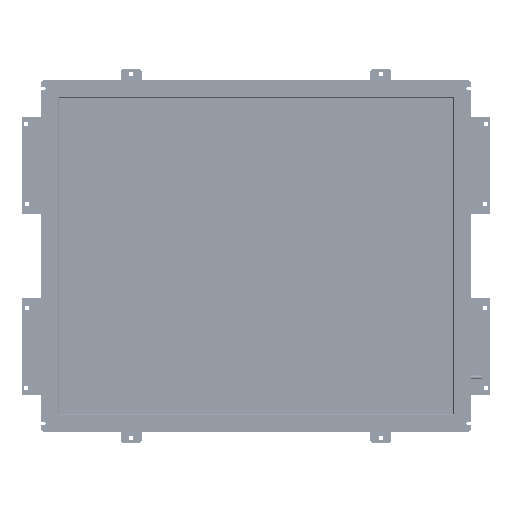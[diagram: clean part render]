
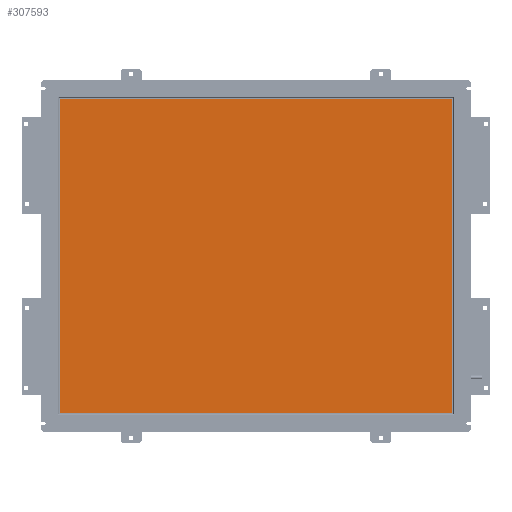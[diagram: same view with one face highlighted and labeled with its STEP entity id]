
A CAD part, top view. The second image highlights one B-rep face of the part: STEP entity #307593.
In plain terms, the highlighted planar face has unit normal (0, 0, 1).
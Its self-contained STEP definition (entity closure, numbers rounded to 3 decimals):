
#5693 = EDGE_CURVE ( 'NONE', #170243, #27244, #236355, .T. ) ;
#23871 = EDGE_CURVE ( 'NONE', #27244, #360030, #30729, .T. ) ;
#27244 = VERTEX_POINT ( 'NONE', #182923 ) ;
#27933 = CARTESIAN_POINT ( 'NONE',  ( -188., 150.5, -1. ) ) ;
#30729 = LINE ( 'NONE', #253588, #181999 ) ;
#36034 = ORIENTED_EDGE ( 'NONE', *, *, #123234, .T. ) ;
#40109 = DIRECTION ( 'NONE',  ( 0., 1., 0. ) ) ;
#54827 = AXIS2_PLACEMENT_3D ( 'NONE', #395364, #231993, #293554 ) ;
#86691 = VECTOR ( 'NONE', #157381, 1000. ) ;
#108989 = CARTESIAN_POINT ( 'NONE',  ( -188., 150.5, -1. ) ) ;
#123234 = EDGE_CURVE ( 'NONE', #186972, #170243, #153213, .T. ) ;
#126384 = VECTOR ( 'NONE', #40109, 1000. ) ;
#130003 = ORIENTED_EDGE ( 'NONE', *, *, #5693, .T. ) ;
#153213 = LINE ( 'NONE', #27933, #86691 ) ;
#157381 = DIRECTION ( 'NONE',  ( -1., 0., 0. ) ) ;
#164164 = PLANE ( 'NONE',  #54827 ) ;
#166266 = FACE_OUTER_BOUND ( 'NONE', #300758, .T. ) ;
#170243 = VERTEX_POINT ( 'NONE', #108989 ) ;
#181999 = VECTOR ( 'NONE', #183645, 1000. ) ;
#182923 = CARTESIAN_POINT ( 'NONE',  ( -188., -150.5, -1. ) ) ;
#183645 = DIRECTION ( 'NONE',  ( 1., 0., 0. ) ) ;
#186972 = VERTEX_POINT ( 'NONE', #342175 ) ;
#211996 = ORIENTED_EDGE ( 'NONE', *, *, #299970, .T. ) ;
#231993 = DIRECTION ( 'NONE',  ( 0., 0., -1. ) ) ;
#236355 = LINE ( 'NONE', #365750, #303141 ) ;
#253588 = CARTESIAN_POINT ( 'NONE',  ( -188., -150.5, -1. ) ) ;
#293554 = DIRECTION ( 'NONE',  ( -1., 0., 0. ) ) ;
#299970 = EDGE_CURVE ( 'NONE', #360030, #186972, #362609, .T. ) ;
#300758 = EDGE_LOOP ( 'NONE', ( #211996, #36034, #130003, #311622 ) ) ;
#303141 = VECTOR ( 'NONE', #363661, 1000. ) ;
#307593 = ADVANCED_FACE ( 'NONE', ( #166266 ), #164164, .F. ) ;
#311622 = ORIENTED_EDGE ( 'NONE', *, *, #23871, .T. ) ;
#342175 = CARTESIAN_POINT ( 'NONE',  ( 188., 150.5, -1. ) ) ;
#360030 = VERTEX_POINT ( 'NONE', #381621 ) ;
#360496 = CARTESIAN_POINT ( 'NONE',  ( 188., -150.5, -1. ) ) ;
#362609 = LINE ( 'NONE', #360496, #126384 ) ;
#363661 = DIRECTION ( 'NONE',  ( 0., -1., 0. ) ) ;
#365750 = CARTESIAN_POINT ( 'NONE',  ( -188., -150.5, -1. ) ) ;
#381621 = CARTESIAN_POINT ( 'NONE',  ( 188., -150.5, -1. ) ) ;
#395364 = CARTESIAN_POINT ( 'NONE',  ( 0., 0., -1. ) ) ;
